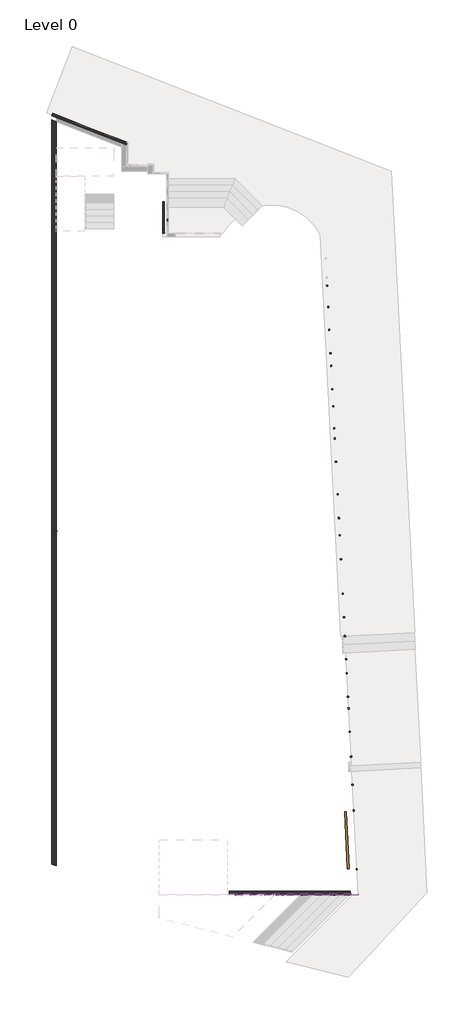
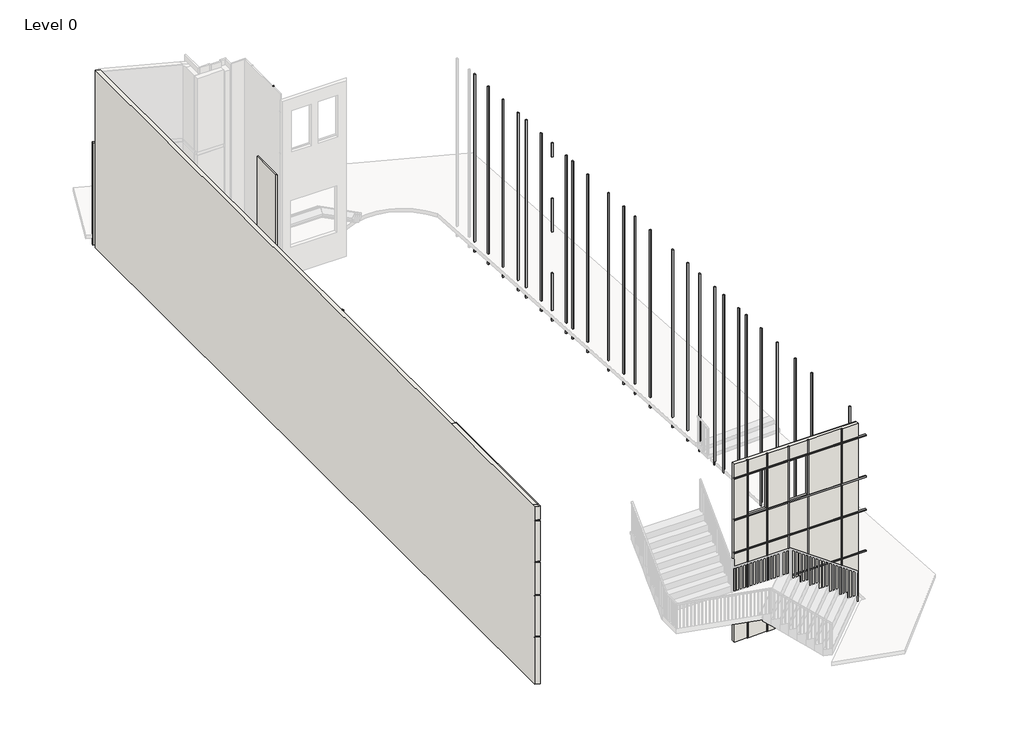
# One storey, part 1 of 6: 37 proxies, 4 walls, 1 door.
"""IFC4 building model written with IfcOpenShell, lengths in millimetres."""

from ifc_helpers import new_model, si_unit, frame, origin, origin_with_axes, place, context, project, spatial, polyline, outline, extrude, faceted_brep, transform, mapped, element, save
from components import m_overhead_rolling_2435_x_1981mm_c1345ebb, wall_9a3caf44

model = new_model("IFC4")

# Units and contexts
model_context = context("Model", 3, world=origin())
ifc_project = project(units=[si_unit("LENGTHUNIT", "METRE", prefix="MILLI")], contexts=[model_context])

# Site, building, storey
site = spatial("IfcSite", under=ifc_project)
building = spatial("IfcBuilding", under=site)
storey = spatial("IfcBuildingStorey", under=building, Name="Level 0", Elevation=0.0)

# Proxies
placement = place(None, origin())
element("IfcBuildingElementProxy", 1, Name="Reveal", ObjectType="Reveal", at=placement, inside=storey, context=model_context, shape_type="SweptSolid", body=[
    extrude(outline(polyline([(12325.5462264, -8627.7267517), (12375.4815392, -8625.1842075), (12378.0240835, -8675.1195203), (12328.0887706, -8677.6620646), (12325.5462264, -8627.7267517)])), origin_with_axes(), (0.0, 0.0, 1.0), 7850.0),
])
element("IfcBuildingElementProxy", 2, Name="Reveal", ObjectType="Reveal", at=placement, inside=storey, context=model_context, shape_type="SweptSolid", body=[
    extrude(outline(polyline([(12376.3971116, -9626.4330086), (12426.3324244, -9623.8904643), (12428.8749687, -9673.8257772), (12378.9396559, -9676.3683214), (12376.3971116, -9626.4330086)])), origin_with_axes(), (0.0, 0.0, 1.0), 7850.0),
])
element("IfcBuildingElementProxy", 3, Name="Reveal", ObjectType="Reveal", at=placement, inside=storey, context=model_context, shape_type="SweptSolid", body=[
    extrude(outline(polyline([(12401.8225542, -10125.786137), (12451.7578671, -10123.2435928), (12454.3004113, -10173.1789056), (12404.3650985, -10175.7214499), (12401.8225542, -10125.786137)])), origin_with_axes(), (0.0, 0.0, 1.0), 7850.0),
])
element("IfcBuildingElementProxy", 4, Name="Reveal", ObjectType="Reveal", at=placement, inside=storey, context=model_context, shape_type="SweptSolid", body=[
    extrude(outline(polyline([(12452.6734395, -11124.4923939), (12502.6087523, -11121.9498496), (12505.1512966, -11171.8851624), (12455.2159838, -11174.4277067), (12452.6734395, -11124.4923939)])), origin_with_axes(), (0.0, 0.0, 1.0), 7850.0),
])
element("IfcBuildingElementProxy", 5, Name="Reveal", ObjectType="Reveal", at=placement, inside=storey, context=model_context, shape_type="SweptSolid", body=[
    extrude(outline(polyline([(12295.0356952, -8028.5029976), (12344.971008, -8025.9604534), (12347.5135523, -8075.8957662), (12297.5782395, -8078.4383105), (12295.0356952, -8028.5029976)])), origin_with_axes(), (0.0, 0.0, 1.0), 7850.0),
])
element("IfcBuildingElementProxy", 6, Name="Reveal", ObjectType="Reveal", at=placement, inside=storey, context=model_context, shape_type="SweptSolid", body=[
    extrude(outline(polyline([(12244.1848099, -7029.7967408), (12294.1201228, -7027.2541965), (12296.662667, -7077.1895094), (12246.7273542, -7079.7320536), (12244.1848099, -7029.7967408)])), origin_with_axes(), (0.0, 0.0, 1.0), 7850.0),
])
element("IfcBuildingElementProxy", 7, Name="Reveal", ObjectType="Reveal", at=placement, inside=storey, context=model_context, shape_type="SweptSolid", body=[
    extrude(outline(polyline([(12203.5041017, -6230.8317353), (12253.4394146, -6228.289191), (12255.9819588, -6278.2245039), (12206.046646, -6280.7670482), (12203.5041017, -6230.8317353)])), origin_with_axes(), (0.0, 0.0, 1.0), 7850.0),
])
element("IfcBuildingElementProxy", 8, Name="Reveal", ObjectType="Reveal", at=placement, inside=storey, context=model_context, shape_type="SweptSolid", body=[
    extrude(outline(polyline([(12152.6532165, -5232.1254785), (12202.5885293, -5229.5829342), (12205.1310736, -5279.518247), (12155.1957607, -5282.0607913), (12152.6532165, -5232.1254785)])), origin_with_axes(), (0.0, 0.0, 1.0), 7850.0),
])
element("IfcBuildingElementProxy", 9, Name="Reveal", ObjectType="Reveal", at=placement, inside=storey, context=model_context, shape_type="SweptSolid", body=[
    extrude(outline(polyline([(12077.170872, -3749.6598473), (12127.1061848, -3747.117303), (12129.6487291, -3797.0526159), (12079.7134163, -3799.5951601), (12077.170872, -3749.6598473)])), origin_with_axes(), (0.0, 0.0, 1.0), 7850.0),
])
element("IfcBuildingElementProxy", 10, Name="Reveal", ObjectType="Reveal", at=placement, inside=storey, context=model_context, shape_type="SweptSolid", body=[
    extrude(outline(polyline([(12025.302969, -2730.9794653), (12075.2382819, -2728.436921), (12077.7808261, -2778.3722339), (12027.8455133, -2780.9147781), (12025.302969, -2730.9794653)])), origin_with_axes(), (0.0, 0.0, 1.0), 7850.0),
])
element("IfcBuildingElementProxy", 11, Name="Reveal", ObjectType="Reveal", at=placement, inside=storey, context=model_context, shape_type="SweptSolid", body=[
    extrude(outline(polyline([(-75.0000039, -2545.4923333), (-25.0000039, -2545.4923333), (-25.0000039, -2595.4923333), (-75.0000039, -2595.4923333), (-75.0000039, -2545.4923333)])), origin_with_axes(), (0.0, 0.0, 1.0), 7850.0),
])
element("IfcBuildingElementProxy", 12, Name="Reveal", ObjectType="Reveal", at=placement, inside=storey, context=model_context, shape_type="SweptSolid", body=[
    extrude(outline(polyline([(11987.8045177, -1994.5136632), (12037.7398305, -1991.9711189), (12040.2823748, -2041.9064318), (11990.3470619, -2044.448976), (11987.8045177, -1994.5136632)])), origin_with_axes(), (0.0, 0.0, 1.0), 7850.0),
])
element("IfcBuildingElementProxy", 13, Name="Reveal", ObjectType="Reveal", at=placement, inside=storey, context=model_context, shape_type="SweptSolid", body=[
    extrude(outline(polyline([(11935.805411, -973.2564532), (11985.7407238, -970.713909), (11988.2832681, -1020.6492218), (11938.3479553, -1023.1917661), (11935.805411, -973.2564532)])), origin_with_axes(), (0.0, 0.0, 1.0), 7850.0),
])
element("IfcBuildingElementProxy", 14, Name="Reveal", ObjectType="Reveal", at=placement, inside=storey, context=model_context, shape_type="SweptSolid", body=[
    extrude(outline(polyline([(11865.6311893, 404.9581812), (11915.5665022, 407.5007255), (11918.1090464, 357.5654126), (11868.1737336, 355.0228684), (11865.6311893, 404.9581812)])), origin_with_axes(), (0.0, 0.0, 1.0), 7850.0),
])
element("IfcBuildingElementProxy", 15, Name="Reveal", ObjectType="Reveal", at=placement, inside=storey, context=model_context, shape_type="SweptSolid", body=[
    extrude(outline(polyline([(11814.7803041, 1403.6644381), (11864.7156169, 1406.2069823), (11867.2581612, 1356.2716695), (11817.3228483, 1353.7291252), (11814.7803041, 1403.6644381)])), origin_with_axes(), (0.0, 0.0, 1.0), 7850.0),
])
element("IfcBuildingElementProxy", 16, Name="Reveal", ObjectType="Reveal", at=placement, inside=storey, context=model_context, shape_type="SweptSolid", body=[
    extrude(outline(polyline([(11792.9144234, 1833.1081282), (11842.8497363, 1835.6506725), (11845.3922805, 1785.7153596), (11795.4569677, 1783.1728154), (11792.9144234, 1833.1081282)])), origin_with_axes(), (0.0, 0.0, 1.0), 7850.0),
])
element("IfcBuildingElementProxy", 17, Name="Reveal", ObjectType="Reveal", at=placement, inside=storey, context=model_context, shape_type="SweptSolid", body=[
    extrude(outline(polyline([(11744.7372862, 2779.3022445), (11794.672599, 2781.8447888), (11797.2151433, 2731.909476), (11747.2798304, 2729.3669317), (11744.7372862, 2779.3022445)])), frame((0.0, 0.0, 7230.0), z_axis=(0.0, 0.0, 1.0), x_axis=(1.0, 0.0, 0.0)), (0.0, 0.0, 1.0), 620.0),
    extrude(outline(polyline([(11744.7372862, 2779.3022445), (11794.672599, 2781.8447888), (11797.2151433, 2731.909476), (11747.2798304, 2729.3669317), (11744.7372862, 2779.3022445)])), frame((0.0, 0.0, 3930.0), z_axis=(0.0, 0.0, 1.0), x_axis=(1.0, 0.0, 0.0)), (0.0, 0.0, 1.0), 1470.0),
    extrude(outline(polyline([(11744.7372862, 2779.3022445), (11794.672599, 2781.8447888), (11797.2151433, 2731.909476), (11747.2798304, 2729.3669317), (11744.7372862, 2779.3022445)])), origin_with_axes(), (0.0, 0.0, 1.0), 2100.0),
])
element("IfcBuildingElementProxy", 18, Name="Reveal", ObjectType="Reveal", at=placement, inside=storey, context=model_context, shape_type="SweptSolid", body=[
    extrude(outline(polyline([(11707.9934451, 3500.9475769), (11757.9287579, 3503.4901212), (11760.4713022, 3453.5548083), (11710.5359893, 3451.012264), (11707.9934451, 3500.9475769)])), origin_with_axes(), (0.0, 0.0, 1.0), 7850.0),
])
element("IfcBuildingElementProxy", 19, Name="Reveal", ObjectType="Reveal", at=placement, inside=storey, context=model_context, shape_type="SweptSolid", body=[
    extrude(outline(polyline([(11657.1425598, 4499.6538337), (11707.0778727, 4502.196378), (11709.6204169, 4452.2610652), (11659.6851041, 4449.7185209), (11657.1425598, 4499.6538337)])), origin_with_axes(), (0.0, 0.0, 1.0), 7850.0),
])
element("IfcBuildingElementProxy", 20, Name="Reveal", ObjectType="Reveal", at=placement, inside=storey, context=model_context, shape_type="SweptSolid", body=[
    extrude(outline(polyline([(11578.8321965, 6037.6614693), (11628.7675094, 6040.2040135), (11631.3100536, 5990.2687007), (11581.3747408, 5987.7261564), (11578.8321965, 6037.6614693)])), origin_with_axes(), (0.0, 0.0, 1.0), 7850.0),
])
element("IfcBuildingElementProxy", 21, Name="Reveal", ObjectType="Reveal", at=placement, inside=storey, context=model_context, shape_type="SweptSolid", body=[
    extrude(outline(polyline([(11529.0651825, 7015.0806042), (11579.0004954, 7017.6231485), (11581.5430396, 6967.6878356), (11531.6077268, 6965.1452914), (11529.0651825, 7015.0806042)])), origin_with_axes(), (0.0, 0.0, 1.0), 7850.0),
])
element("IfcBuildingElementProxy", 22, Name="Reveal", ObjectType="Reveal", at=placement, inside=storey, context=model_context, shape_type="SweptSolid", body=[
    extrude(outline(polyline([(11482.5366225, 7928.8968292), (11532.4719353, 7931.4393735), (11535.0144796, 7881.5040606), (11485.0791668, 7878.9615164), (11482.5366225, 7928.8968292)])), origin_with_axes(), (0.0, 0.0, 1.0), 7850.0),
])
element("IfcBuildingElementProxy", 23, Name="Reveal", ObjectType="Reveal", at=placement, inside=storey, context=model_context, shape_type="SweptSolid", body=[
    extrude(outline(polyline([(11629.6830818, 5038.9552124), (11679.6183946, 5041.4977567), (11682.1609389, 4991.5624439), (11632.225626, 4989.0198996), (11629.6830818, 5038.9552124)])), origin_with_axes(), (0.0, 0.0, 1.0), 7850.0),
])
element("IfcBuildingElementProxy", 24, Name="Reveal", ObjectType="Reveal", at=placement, inside=storey, context=model_context, shape_type="SweptSolid", body=[
    extrude(outline(polyline([(12623.532414, -14480.1454169), (12673.4677268, -14477.6028726), (12676.0102711, -14527.5381855), (12626.0749582, -14530.0807297), (12623.532414, -14480.1454169)])), origin_with_axes(), (0.0, 0.0, 1.0), 7850.0),
])
element("IfcBuildingElementProxy", 25, Name="Reveal", ObjectType="Reveal", at=placement, inside=storey, context=model_context, shape_type="SweptSolid", body=[
    extrude(outline(polyline([(12751.5848142, -16995.081641), (12801.5201271, -16992.5390968), (12804.0626713, -17042.4744096), (12754.1273585, -17045.0169539), (12751.5848142, -16995.081641)])), origin_with_axes(), (0.0, 0.0, 1.0), 7850.0),
])
element("IfcBuildingElementProxy", 26, Name="Reveal", ObjectType="Reveal", at=placement, inside=storey, context=model_context, shape_type="SweptSolid", body=[
    extrude(outline(polyline([(12506.4835473, -12181.317483), (12556.4188601, -12178.7749388), (12558.9614044, -12228.7102516), (12509.0260916, -12231.2527959), (12506.4835473, -12181.317483)])), origin_with_axes(), (0.0, 0.0, 1.0), 7850.0),
])
element("IfcBuildingElementProxy", 27, Name="Reveal", ObjectType="Reveal", at=placement, inside=storey, context=model_context, shape_type="SweptSolid", body=[
    extrude(outline(polyline([(12567.5046096, -13379.7649913), (12617.4399224, -13377.222447), (12619.9824667, -13427.1577598), (12570.0471539, -13429.7003041), (12567.5046096, -13379.7649913)])), origin_with_axes(), (0.0, 0.0, 1.0), 7850.0),
])
element("IfcBuildingElementProxy", 28, Name="Reveal", ObjectType="Reveal", at=placement, inside=storey, context=model_context, shape_type="SweptSolid", body=[
    extrude(outline(polyline([(4695.156273, 10731.9436225), (4745.156273, 10731.9436225), (4745.156273, 10681.9436225), (4695.156273, 10681.9436225), (4695.156273, 10731.9436225)])), origin_with_axes(), (0.0, 0.0, 1.0), 8000.0),
])
element("IfcBuildingElementProxy", 29, Name="Reveal", ObjectType="Reveal", at=placement, inside=storey, context=model_context, shape_type="SweptSolid", body=[
    extrude(outline(polyline([(7340.0200629, -18120.5937279), (7340.0200629, -18070.5937279), (12831.3787889, -18070.5937279), (12833.9246268, -18120.5937279), (7340.0200629, -18120.5937279)])), frame((0.0, 0.0, 7205.0), z_axis=(0.0, 0.0, 1.0), x_axis=(1.0, 0.0, 0.0)), (0.0, 0.0, 1.0), 50.0),
])
element("IfcBuildingElementProxy", 30, Name="Reveal", ObjectType="Reveal", at=placement, inside=storey, context=model_context, shape_type="SweptSolid", body=[
    extrude(outline(polyline([(7340.0200629, -18120.5937279), (7340.0200629, -18070.5937279), (12831.3787889, -18070.5937279), (12833.9246268, -18120.5937279), (7340.0200629, -18120.5937279)])), frame((0.0, 0.0, 5375.0), z_axis=(0.0, 0.0, 1.0), x_axis=(1.0, 0.0, 0.0)), (0.0, 0.0, 1.0), 50.0),
])
element("IfcBuildingElementProxy", 31, Name="Reveal", ObjectType="Reveal", at=placement, inside=storey, context=model_context, shape_type="SweptSolid", body=[
    extrude(outline(polyline([(7915.0200629, -18070.5937279), (7915.0200629, -18120.5937279), (7865.0200629, -18120.5937279), (7865.0200629, -18070.5937279), (7915.0200629, -18070.5937279)])), origin_with_axes(), (0.0, 0.0, 1.0), 7850.0),
])
element("IfcBuildingElementProxy", 32, Name="Reveal", ObjectType="Reveal", at=placement, inside=storey, context=model_context, shape_type="SweptSolid", body=[
    extrude(outline(polyline([(8730.0200629, -18070.5937279), (8730.0200629, -18120.5937279), (8680.0200629, -18120.5937279), (8680.0200629, -18070.5937279), (8730.0200629, -18070.5937279)])), origin_with_axes(), (0.0, 0.0, 1.0), 7850.0),
])
element("IfcBuildingElementProxy", 33, Name="Reveal", ObjectType="Reveal", at=placement, inside=storey, context=model_context, shape_type="SweptSolid", body=[
    extrude(outline(polyline([(9630.0200629, -18070.5937279), (9630.0200629, -18120.5937279), (9580.0200629, -18120.5937279), (9580.0200629, -18070.5937279), (9630.0200629, -18070.5937279)])), origin_with_axes(), (0.0, 0.0, 1.0), 7850.0),
])
element("IfcBuildingElementProxy", 34, Name="Reveal", ObjectType="Reveal", at=placement, inside=storey, context=model_context, shape_type="SweptSolid", body=[
    extrude(outline(polyline([(10445.0200629, -18070.5937279), (10445.0200629, -18120.5937279), (10395.0200629, -18120.5937279), (10395.0200629, -18070.5937279), (10445.0200629, -18070.5937279)])), origin_with_axes(), (0.0, 0.0, 1.0), 7850.0),
])
element("IfcBuildingElementProxy", 35, Name="Reveal", ObjectType="Reveal", at=placement, inside=storey, context=model_context, shape_type="SweptSolid", body=[
    extrude(outline(polyline([(11840.0200629, -18070.5937279), (11840.0200629, -18120.5937279), (11790.0200629, -18120.5937279), (11790.0200629, -18070.5937279), (11840.0200629, -18070.5937279)])), origin_with_axes(), (0.0, 0.0, 1.0), 7850.0),
])
element("IfcBuildingElementProxy", 36, Name="Reveal", ObjectType="Reveal", at=placement, inside=storey, context=model_context, shape_type="SweptSolid", body=[
    extrude(outline(polyline([(7340.0200629, -18120.5937279), (7340.0200629, -18070.5937279), (12831.3787889, -18070.5937279), (12833.9246268, -18120.5937279), (7340.0200629, -18120.5937279)])), frame((0.0, 0.0, 2095.0), z_axis=(0.0, 0.0, 1.0), x_axis=(1.0, 0.0, 0.0)), (0.0, 0.0, 1.0), 50.0),
])
element("IfcBuildingElementProxy", 37, Name="Reveal", ObjectType="Reveal", at=placement, inside=storey, context=model_context, shape_type="SweptSolid", body=[
    extrude(outline(polyline([(7340.0200629, -18120.5937279), (7340.0200629, -18070.5937279), (12831.3787889, -18070.5937279), (12833.9246268, -18120.5937279), (7340.0200629, -18120.5937279)])), frame((0.0, 0.0, 3915.0), z_axis=(0.0, 0.0, 1.0), x_axis=(1.0, 0.0, 0.0)), (0.0, 0.0, 1.0), 50.0),
])

# Door
m_overhead_rolling_2435_x_1981mm_shape = m_overhead_rolling_2435_x_1981mm_c1345ebb(model_context)
element("IfcDoor", 38, ObjectType="M_Overhead-Rolling : 2435 x 1981mm", at=placement, inside=storey, context=model_context, shape_type="MappedRepresentation", body=[
    mapped(m_overhead_rolling_2435_x_1981mm_shape, transform((12553.9233296, -15767.8510608, 0.0), x_axis=(0.05085088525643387, -0.9987062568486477, 0.0), y_axis=(0.9987062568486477, 0.05085088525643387, 0.0), z_axis=(0.0, 0.0, 1.0))),
])

# Walls
element("IfcWall", 39, ObjectType="Generic - 15cm-gypsum-kamposite 2", at=placement, inside=storey, context=model_context, shape_type="Brep", body=[
    faceted_brep([(7340.0200629, -18095.5937279, 7850.0), (7340.0200629, -18095.5937279, 7255.0), (7865.0200629, -18095.5937279, 7255.0), (7865.0200629, -18095.5937279, 7850.0), (12512.2371737, -18095.5937279, 7255.0), (12512.2371737, -18095.5937279, 7850.0), (11840.0200629, -18095.5937279, 7850.0), (11840.0200629, -18095.5937279, 7255.0), (7340.0200629, -18095.5937279, 7205.0), (7340.0200629, -18095.5937279, 5425.0), (7865.0200629, -18095.5937279, 5425.0), (7865.0200629, -18095.5937279, 7205.0), (12512.2371737, -18095.5937279, 5425.0), (12512.2371737, -18095.5937279, 7205.0), (11840.0200629, -18095.5937279, 7205.0), (11840.0200629, -18095.5937279, 5425.0), (7340.0200629, -18095.5937279, 0.0), (7865.0200629, -18095.5937279, 0.0), (7865.0200629, -18095.5937279, 2095.0), (7340.0200629, -18095.5937279, 2095.0), (7865.0200629, -18095.5937279, 5375.0), (7340.0200629, -18095.5937279, 5375.0), (7340.0200629, -18095.5937279, 3965.0), (7865.0200629, -18095.5937279, 3965.0), (7915.0200629, -18095.5937279, 7850.0), (7915.0200629, -18095.5937279, 7255.0), (8680.0200629, -18095.5937279, 7255.0), (8680.0200629, -18095.5937279, 7850.0), (8680.0200629, -18095.5937279, 5375.0), (7915.0200629, -18095.5937279, 5375.0), (7915.0200629, -18095.5937279, 3965.0), (8680.0200629, -18095.5937279, 3965.0), (7915.0200629, -18095.5937279, 0.0), (8680.0200629, -18095.5937279, 0.0), (8680.0200629, -18095.5937279, 2095.0), (7915.0200629, -18095.5937279, 2095.0), (8730.0200629, -18095.5937279, 7850.0), (8730.0200629, -18095.5937279, 7255.0), (9580.0200629, -18095.5937279, 7255.0), (9580.0200629, -18095.5937279, 7850.0), (8730.0200629, -18095.5937279, 7205.0), (8730.0200629, -18095.5937279, 5425.0), (9580.0200629, -18095.5937279, 5425.0), (9580.0200629, -18095.5937279, 7205.0), (9580.0200629, -18095.5937279, 5375.0), (8730.0200629, -18095.5937279, 5375.0), (8730.0200629, -18095.5937279, 3965.0), (9580.0200629, -18095.5937279, 3965.0), (8730.0200629, -18095.5937279, 0.0), (9580.0200629, -18095.5937279, 0.0), (9580.0200629, -18095.5937279, 2095.0), (8730.0200629, -18095.5937279, 2095.0), (9630.0200629, -18095.5937279, 7850.0), (9630.0200629, -18095.5937279, 7255.0), (10395.0200629, -18095.5937279, 7255.0), (10395.0200629, -18095.5937279, 7850.0), (10395.0200629, -18095.5937279, 5375.0), (9630.0200629, -18095.5937279, 5375.0), (9630.0200629, -18095.5937279, 3965.0), (10395.0200629, -18095.5937279, 3965.0), (9630.0200629, -18095.5937279, 0.0), (10395.0200629, -18095.5937279, 0.0), (10395.0200629, -18095.5937279, 2095.0), (9630.0200629, -18095.5937279, 2095.0), (10445.0200629, -18095.5937279, 7850.0), (10445.0200629, -18095.5937279, 7255.0), (11790.0200629, -18095.5937279, 7255.0), (11790.0200629, -18095.5937279, 7850.0), (10445.0200629, -18095.5937279, 7205.0), (10445.0200629, -18095.5937279, 5425.0), (11790.0200629, -18095.5937279, 5425.0), (11790.0200629, -18095.5937279, 7205.0), (11790.0200629, -18095.5937279, 5375.0), (10445.0200629, -18095.5937279, 5375.0), (10445.0200629, -18095.5937279, 3965.0), (11790.0200629, -18095.5937279, 3965.0), (12512.2371737, -18095.5937279, 5375.0), (11840.0200629, -18095.5937279, 5375.0), (11840.0200629, -18095.5937279, 3965.0), (12512.2371737, -18095.5937279, 3965.0), (10445.0200629, -18095.5937279, 0.0), (11790.0200629, -18095.5937279, 0.0), (11790.0200629, -18095.5937279, 2095.0), (10445.0200629, -18095.5937279, 2095.0), (11840.0200629, -18095.5937279, 0.0), (12512.2371737, -18095.5937279, 0.0), (12512.2371737, -18095.5937279, 2095.0), (11840.0200629, -18095.5937279, 2095.0), (11840.0200629, -18095.5937279, 2145.0), (12512.2371737, -18095.5937279, 2145.0), (12512.2371737, -18095.5937279, 3915.0), (11840.0200629, -18095.5937279, 3915.0), (7340.0200629, -18095.5937279, 2145.0), (7865.0200629, -18095.5937279, 2145.0), (7865.0200629, -18095.5937279, 3915.0), (7340.0200629, -18095.5937279, 3915.0), (7915.0200629, -18095.5937279, 2145.0), (8680.0200629, -18095.5937279, 2145.0), (8680.0200629, -18095.5937279, 3915.0), (7915.0200629, -18095.5937279, 3915.0), (8730.0200629, -18095.5937279, 2145.0), (9580.0200629, -18095.5937279, 2145.0), (9580.0200629, -18095.5937279, 3915.0), (8730.0200629, -18095.5937279, 3915.0), (9630.0200629, -18095.5937279, 2145.0), (10395.0200629, -18095.5937279, 2145.0), (10395.0200629, -18095.5937279, 3915.0), (9630.0200629, -18095.5937279, 3915.0), (10445.0200629, -18095.5937279, 2145.0), (11790.0200629, -18095.5937279, 2145.0), (11790.0200629, -18095.5937279, 3915.0), (10445.0200629, -18095.5937279, 3915.0), (12504.5996599, -17945.5937279, 0.0), (7340.0200629, -17945.5937279, 0.0), (7340.0200629, -17945.5937279, 4500.0), (7340.0200629, -17945.5937279, 7850.0), (7490.0200629, -17945.5937279, 7850.0), (12504.5996599, -17945.5937279, 7850.0), (12504.5996599, -17945.5937279, 4500.0), (7490.0200629, -17945.5937279, 4500.0), (7460.0200629, -17945.5937279, 4500.0), (7460.0200629, -17945.5937279, 4350.0), (12504.5996599, -17945.5937279, 4350.0), (8705.0200629, -17945.5937279, 5400.0), (8705.0200629, -17945.5937279, 7230.0), (7890.0200629, -17945.5937279, 7230.0), (7890.0200629, -17945.5937279, 5400.0), (10420.0200629, -17945.5937279, 5400.0), (10420.0200629, -17945.5937279, 7230.0), (9605.0200629, -17945.5937279, 7230.0), (9605.0200629, -17945.5937279, 5400.0), (11840.0200629, -18070.5937279, 0.0), (11790.0200629, -18070.5937279, 0.0), (10445.0200629, -18070.5937279, 0.0), (10395.0200629, -18070.5937279, 0.0), (9630.0200629, -18070.5937279, 0.0), (9580.0200629, -18070.5937279, 0.0), (8730.0200629, -18070.5937279, 0.0), (8680.0200629, -18070.5937279, 0.0), (7915.0200629, -18070.5937279, 0.0), (7865.0200629, -18070.5937279, 0.0), (7340.0200629, -18070.5937279, 2095.0), (7340.0200629, -18070.5937279, 2145.0), (7340.0200629, -18070.5937279, 3915.0), (7340.0200629, -18070.5937279, 3965.0), (7340.0200629, -18070.5937279, 5375.0), (7340.0200629, -18070.5937279, 5425.0), (7340.0200629, -18070.5937279, 7205.0), (7340.0200629, -18070.5937279, 7255.0), (7340.0200629, -17965.5937279, 7850.0), (12505.6179951, -17965.5937279, 4350.0), (12505.6179951, -17965.5937279, 4500.0), (12505.6179951, -17965.5937279, 7850.0), (12510.9642547, -18070.5937279, 7255.0), (12510.9642547, -18070.5937279, 7205.0), (12510.9642547, -18070.5937279, 5425.0), (12510.9642547, -18070.5937279, 5375.0), (12510.9642547, -18070.5937279, 3965.0), (12510.9642547, -18070.5937279, 3915.0), (12510.9642547, -18070.5937279, 2145.0), (12510.9642547, -18070.5937279, 2095.0), (7460.0200629, -17965.5937279, 4350.0), (7460.0200629, -17965.5937279, 4500.0), (7865.0200629, -18070.5937279, 7850.0), (7915.0200629, -18070.5937279, 7850.0), (8680.0200629, -18070.5937279, 7850.0), (8730.0200629, -18070.5937279, 7850.0), (9580.0200629, -18070.5937279, 7850.0), (9630.0200629, -18070.5937279, 7850.0), (10395.0200629, -18070.5937279, 7850.0), (10445.0200629, -18070.5937279, 7850.0), (11790.0200629, -18070.5937279, 7850.0), (11840.0200629, -18070.5937279, 7850.0), (8705.0200629, -18070.5937279, 5400.0), (8705.0200629, -18070.5937279, 7230.0), (7890.0200629, -18070.5937279, 7230.0), (7890.0200629, -18070.5937279, 5400.0), (10420.0200629, -18070.5937279, 5400.0), (10420.0200629, -18070.5937279, 7230.0), (9605.0200629, -18070.5937279, 7230.0), (9605.0200629, -18070.5937279, 5400.0), (7865.0200629, -18070.5937279, 7205.0), (7865.0200629, -18070.5937279, 5425.0), (7865.0200629, -18070.5937279, 5375.0), (7865.0200629, -18070.5937279, 3965.0), (7865.0200629, -18070.5937279, 3915.0), (7865.0200629, -18070.5937279, 2145.0), (7865.0200629, -18070.5937279, 2095.0), (7915.0200629, -18070.5937279, 2095.0), (8680.0200629, -18070.5937279, 2095.0), (8730.0200629, -18070.5937279, 2095.0), (9580.0200629, -18070.5937279, 2095.0), (9630.0200629, -18070.5937279, 2095.0), (10395.0200629, -18070.5937279, 2095.0), (10445.0200629, -18070.5937279, 2095.0), (11790.0200629, -18070.5937279, 2095.0), (11840.0200629, -18070.5937279, 2095.0), (11840.0200629, -18070.5937279, 2145.0), (11840.0200629, -18070.5937279, 3915.0), (11840.0200629, -18070.5937279, 3965.0), (11840.0200629, -18070.5937279, 5375.0), (11840.0200629, -18070.5937279, 5425.0), (11840.0200629, -18070.5937279, 7205.0), (11840.0200629, -18070.5937279, 7255.0), (11790.0200629, -18070.5937279, 7255.0), (10445.0200629, -18070.5937279, 7255.0), (10395.0200629, -18070.5937279, 7255.0), (9630.0200629, -18070.5937279, 7255.0), (9580.0200629, -18070.5937279, 7255.0), (8730.0200629, -18070.5937279, 7255.0), (8680.0200629, -18070.5937279, 7255.0), (7915.0200629, -18070.5937279, 7255.0), (7865.0200629, -18070.5937279, 7255.0), (8730.0200629, -18070.5937279, 5425.0), (8730.0200629, -18070.5937279, 7205.0), (9580.0200629, -18070.5937279, 7205.0), (9580.0200629, -18070.5937279, 5425.0), (7915.0200629, -18070.5937279, 5375.0), (8680.0200629, -18070.5937279, 5375.0), (8680.0200629, -18070.5937279, 3965.0), (7915.0200629, -18070.5937279, 3965.0), (8730.0200629, -18070.5937279, 5375.0), (9580.0200629, -18070.5937279, 5375.0), (9580.0200629, -18070.5937279, 3965.0), (8730.0200629, -18070.5937279, 3965.0), (10445.0200629, -18070.5937279, 5425.0), (10445.0200629, -18070.5937279, 7205.0), (11790.0200629, -18070.5937279, 7205.0), (11790.0200629, -18070.5937279, 5425.0), (9630.0200629, -18070.5937279, 5375.0), (10395.0200629, -18070.5937279, 5375.0), (10395.0200629, -18070.5937279, 3965.0), (9630.0200629, -18070.5937279, 3965.0), (10445.0200629, -18070.5937279, 5375.0), (11790.0200629, -18070.5937279, 5375.0), (11790.0200629, -18070.5937279, 3965.0), (10445.0200629, -18070.5937279, 3965.0), (7915.0200629, -18070.5937279, 2145.0), (7915.0200629, -18070.5937279, 3915.0), (8680.0200629, -18070.5937279, 3915.0), (8680.0200629, -18070.5937279, 2145.0), (8730.0200629, -18070.5937279, 2145.0), (8730.0200629, -18070.5937279, 3915.0), (9580.0200629, -18070.5937279, 3915.0), (9580.0200629, -18070.5937279, 2145.0), (9630.0200629, -18070.5937279, 2145.0), (9630.0200629, -18070.5937279, 3915.0), (10395.0200629, -18070.5937279, 3915.0), (10395.0200629, -18070.5937279, 2145.0), (10445.0200629, -18070.5937279, 2145.0), (10445.0200629, -18070.5937279, 3915.0), (11790.0200629, -18070.5937279, 3915.0), (11790.0200629, -18070.5937279, 2145.0)], [[[0, 1, 2, 3]], [[4, 5, 6, 7]], [[8, 9, 10, 11]], [[12, 13, 14, 15]], [[16, 17, 18, 19]], [[20, 21, 22, 23]], [[24, 25, 26, 27]], [[28, 29, 30, 31]], [[32, 33, 34, 35]], [[36, 37, 38, 39]], [[40, 41, 42, 43]], [[44, 45, 46, 47]], [[48, 49, 50, 51]], [[52, 53, 54, 55]], [[56, 57, 58, 59]], [[60, 61, 62, 63]], [[64, 65, 66, 67]], [[68, 69, 70, 71]], [[72, 73, 74, 75]], [[76, 77, 78, 79]], [[80, 81, 82, 83]], [[84, 85, 86, 87]], [[88, 89, 90, 91]], [[92, 93, 94, 95]], [[96, 97, 98, 99]], [[100, 101, 102, 103]], [[104, 105, 106, 107]], [[108, 109, 110, 111]], [[112, 113, 114, 115, 116, 117, 118, 119, 120, 121, 122], [123, 124, 125, 126], [127, 128, 129, 130]], [[113, 112, 85, 84, 131, 132, 81, 80, 133, 134, 61, 60, 135, 136, 49, 48, 137, 138, 33, 32, 139, 140, 17, 16]], [[115, 114, 113, 16, 19, 141, 142, 92, 95, 143, 144, 22, 21, 145, 146, 9, 8, 147, 148, 1, 0, 149]], [[85, 112, 122, 150, 151, 118, 117, 152, 5, 4, 153, 154, 13, 12, 155, 156, 76, 79, 157, 158, 90, 89, 159, 160, 86]], [[121, 161, 150, 122]], [[151, 162, 120, 119, 118]], [[161, 162, 151, 150]], [[162, 161, 121, 120]], [[149, 0, 3, 163, 164, 24, 27, 165, 166, 36, 39, 167, 168, 52, 55, 169, 170, 64, 67, 171, 172, 6, 5, 152]], [[152, 117, 116, 115, 149]], [[124, 123, 173, 174]], [[125, 124, 174, 175]], [[126, 125, 175, 176]], [[123, 126, 176, 173]], [[128, 127, 177, 178]], [[129, 128, 178, 179]], [[130, 129, 179, 180]], [[127, 130, 180, 177]], [[148, 147, 181, 182, 146, 145, 183, 184, 144, 143, 185, 186, 142, 141, 187, 140, 139, 188, 189, 138, 137, 190, 191, 136, 135, 192, 193, 134, 133, 194, 195, 132, 131, 196, 160, 159, 197, 198, 158, 157, 199, 200, 156, 155, 201, 202, 154, 153, 203, 172, 171, 204, 205, 170, 169, 206, 207, 168, 167, 208, 209, 166, 165, 210, 211, 164, 163, 212], [176, 175, 174, 173], [213, 214, 215, 216], [217, 218, 219, 220], [221, 222, 223, 224], [180, 179, 178, 177], [225, 226, 227, 228], [229, 230, 231, 232], [233, 234, 235, 236], [237, 238, 239, 240], [241, 242, 243, 244], [245, 246, 247, 248], [249, 250, 251, 252]], [[147, 8, 11, 181]], [[13, 154, 202, 14]], [[214, 40, 43, 215]], [[226, 68, 71, 227]], [[1, 148, 212, 2]], [[153, 4, 7, 203]], [[25, 211, 210, 26]], [[37, 209, 208, 38]], [[53, 207, 206, 54]], [[65, 205, 204, 66]], [[145, 21, 20, 183]], [[76, 156, 200, 77]], [[217, 29, 28, 218]], [[221, 45, 44, 222]], [[229, 57, 56, 230]], [[233, 73, 72, 234]], [[9, 146, 182, 10]], [[155, 12, 15, 201]], [[41, 213, 216, 42]], [[69, 225, 228, 70]], [[212, 163, 3, 2]], [[182, 181, 11, 10]], [[17, 140, 187, 18]], [[183, 20, 23, 184]], [[93, 186, 185, 94]], [[164, 211, 25, 24]], [[139, 32, 35, 188]], [[29, 217, 220, 30]], [[237, 96, 99, 238]], [[210, 165, 27, 26]], [[33, 138, 189, 34]], [[218, 28, 31, 219]], [[97, 240, 239, 98]], [[166, 209, 37, 36]], [[214, 213, 41, 40]], [[137, 48, 51, 190]], [[45, 221, 224, 46]], [[241, 100, 103, 242]], [[208, 167, 39, 38]], [[216, 215, 43, 42]], [[49, 136, 191, 50]], [[222, 44, 47, 223]], [[101, 244, 243, 102]], [[168, 207, 53, 52]], [[135, 60, 63, 192]], [[57, 229, 232, 58]], [[245, 104, 107, 246]], [[206, 169, 55, 54]], [[61, 134, 193, 62]], [[230, 56, 59, 231]], [[105, 248, 247, 106]], [[170, 205, 65, 64]], [[226, 225, 69, 68]], [[133, 80, 83, 194]], [[73, 233, 236, 74]], [[249, 108, 111, 250]], [[204, 171, 67, 66]], [[228, 227, 71, 70]], [[81, 132, 195, 82]], [[234, 72, 75, 235]], [[109, 252, 251, 110]], [[172, 203, 7, 6]], [[202, 201, 15, 14]], [[131, 84, 87, 196]], [[77, 200, 199, 78]], [[197, 88, 91, 198]], [[187, 141, 19, 18]], [[189, 188, 35, 34]], [[191, 190, 51, 50]], [[193, 192, 63, 62]], [[195, 194, 83, 82]], [[160, 196, 87, 86]], [[142, 186, 93, 92]], [[237, 240, 97, 96]], [[241, 244, 101, 100]], [[245, 248, 105, 104]], [[249, 252, 109, 108]], [[197, 159, 89, 88]], [[185, 143, 95, 94]], [[239, 238, 99, 98]], [[243, 242, 103, 102]], [[247, 246, 107, 106]], [[251, 250, 111, 110]], [[158, 198, 91, 90]], [[144, 184, 23, 22]], [[220, 219, 31, 30]], [[224, 223, 47, 46]], [[232, 231, 59, 58]], [[236, 235, 75, 74]], [[199, 157, 79, 78]]]),
])
element("IfcWall", 40, ObjectType="kamposite5cm", at=placement, inside=storey, context=model_context, shape_type="SweptSolid", body=[
    extrude(outline(polyline([(4502.5008952, 10131.7405588), (4502.5008952, 11496.9409298), (4552.5008952, 11496.9409298), (4552.5008952, 10131.7405588), (4502.5008952, 10131.7405588)])), origin_with_axes(), (0.0, 0.0, 1.0), 4500.0),
])
wall_shape = wall_9a3caf44(model_context)
element("IfcWall", 41, ObjectType="kamposite10 : kamposite2", at=placement, inside=storey, context=model_context, shape_type="MappedRepresentation", body=[
    mapped(wall_shape, transform((0.0, 0.0, 2000.0), x_axis=(1.0, 0.0, 0.0), y_axis=(0.0, 1.0, 0.0), z_axis=(0.0, 0.0, 1.0))),
])
element("IfcWall", 42, ObjectType="Generic - 20cm-granit", at=placement, inside=storey, context=model_context, shape_type="Brep", body=[
    faceted_brep([(-50.0000039, 14903.4677145, 0.0), (-50.0000039, 14903.4677145, 4350.0), (-50.0000039, 13901.5570443, 4350.0), (-50.0000039, 12568.8506586, 4350.0), (-50.0000039, 12568.8506586, 4500.0), (-50.0000039, 13901.5570443, 4500.0), (-50.0000039, 14903.4677145, 4500.0), (-50.0000039, 14903.4677145, 7759.0), (-50.0000039, 13901.5570443, 7759.0), (-50.0000039, 10481.5722364, 7759.0), (-50.0000039, -2545.4923333, 7759.0), (-50.0000039, -2545.4923333, 4500.0), (-50.0000039, 2226.9438392, 4500.0), (-50.0000039, 2226.9438392, 4350.0), (-50.0000039, -2545.4923333, 4350.0), (-50.0000039, -2545.4923333, 0.0), (-50.0000039, 10328.8506586, 4350.0), (-50.0000039, 6351.9438364, 4350.0), (-50.0000039, 6351.9438364, 4500.0), (-50.0000039, 6359.4957281, 4500.0), (-50.0000039, 6539.4957281, 4500.0), (-50.0000039, 8681.9396335, 4500.0), (-50.0000039, 8861.9396335, 4500.0), (-50.0000039, 10328.8506586, 4500.0), (-50.0000039, -16725.521894, 4350.0), (-50.0000039, -16725.521894, 4500.0), (-50.0000039, -16704.4650439, 4500.0), (-50.0000039, -12823.8791407, 4500.0), (-50.0000039, -12673.8791407, 4500.0), (-50.0000039, -4303.7038617, 4500.0), (-50.0000039, -4153.7038617, 4500.0), (-50.0000039, -2595.4923333, 4500.0), (-50.0000039, -2595.4923333, 7759.0), (-50.0000039, -10787.9183278, 7759.0), (-50.0000039, -10787.9183278, 7850.0), (-50.0000039, -10814.615329, 7850.0), (-50.0000039, -16704.4650439, 7850.0), (-50.0000039, -16725.521894, 7850.0), (-50.0000039, -16862.3914197, 7850.0), (-50.0000039, -16862.3914197, 7255.0), (-50.0000039, -16836.0703571, 7255.0), (-50.0000039, -16836.0703571, 7205.0), (-50.0000039, -16862.3914197, 7205.0), (-50.0000039, -16862.3914197, 5425.0), (-50.0000039, -16836.0703571, 5425.0), (-50.0000039, -16836.0703571, 5375.0), (-50.0000039, -16862.3914197, 5375.0), (-50.0000039, -16862.3914197, 3955.0), (-50.0000039, -16836.0703571, 3955.0), (-50.0000039, -16836.0703571, 3905.0), (-50.0000039, -16862.3914197, 3905.0), (-50.0000039, -16862.3914197, 2125.0), (-50.0000039, -16836.0703571, 2125.0), (-50.0000039, -16836.0703571, 2075.0), (-50.0000039, -16862.3914197, 2075.0), (-50.0000039, -16862.3914197, 1200.0), (-50.0000039, -16862.3914197, 0.0), (-50.0000039, -2595.4923333, 0.0), (-50.0000039, -2595.4923333, 4350.0), (-50.0000039, -16704.4650439, 4350.0), (-250.0000039, 14982.068236, 0.0), (-250.0000039, -16796.5196228, 0.0), (-250.0000039, -16796.5196228, 2075.0), (-250.0000039, -16770.1985601, 2075.0), (-250.0000039, -16770.1985601, 2125.0), (-250.0000039, -16796.5196228, 2125.0), (-250.0000039, -16796.5196228, 3905.0), (-250.0000039, -16770.1985601, 3905.0), (-250.0000039, -16770.1985601, 3955.0), (-250.0000039, -16796.5196228, 3955.0), (-250.0000039, -16796.5196228, 5375.0), (-250.0000039, -16770.1985601, 5375.0), (-250.0000039, -16770.1985601, 5425.0), (-250.0000039, -16796.5196228, 5425.0), (-250.0000039, -16796.5196228, 7205.0), (-250.0000039, -16770.1985601, 7205.0), (-250.0000039, -16770.1985601, 7255.0), (-250.0000039, -16796.5196228, 7255.0), (-250.0000039, -16796.5196228, 7850.0), (-250.0000039, -16659.6500971, 7850.0), (-250.0000039, -10761.1063058, 7850.0), (-250.0000039, 14982.068236, 7850.0), (-75.0000039, -2545.4923333, 0.0), (-75.0000039, -2595.4923333, 0.0), (-80.0000039, 14915.2577927, 7850.0), (-80.0000039, 14915.2577927, 7759.0), (-80.0000039, 14915.2577927, 4500.0), (-80.0000039, 14915.2577927, 4350.0), (-80.0000039, -16852.5106502, 7850.0), (-50.2184072, 2226.9438392, 4350.0), (-50.2184072, 6351.9438364, 4350.0), (-60.0290025, 10328.8506586, 4350.0), (-60.0290025, 12568.8506586, 4350.0), (-80.0000039, -16715.6411245, 4350.0), (-75.0000039, -2595.4923333, 4350.0), (-75.0000039, -2545.4923333, 4350.0), (-50.2184072, 6351.9438364, 4500.0), (-50.2184072, 2226.9438392, 4500.0), (-75.0000039, -2545.4923333, 4500.0), (-75.0000039, -2595.4923333, 4500.0), (-80.0000039, -16715.6411245, 4500.0), (-60.0290025, 12568.8506586, 4500.0), (-60.0290025, 10328.8506586, 4500.0), (-80.0000039, -10781.541631, 7759.0), (-75.0000039, -2595.4923333, 7759.0), (-75.0000039, -2545.4923333, 7759.0), (-80.0000039, -10781.541631, 7850.0), (-80.0000039, -16715.6411245, 7850.0), (-80.0000039, -10806.5889755, 7850.0)], [[[0, 1, 2, 3, 4, 5, 6, 7, 8, 9, 10, 11, 12, 13, 14, 15], [16, 17, 18, 19, 20, 21, 22, 23]], [[24, 25, 26, 27, 28, 29, 30, 31, 32, 33, 34, 35, 36, 37, 38, 39, 40, 41, 42, 43, 44, 45, 46, 47, 48, 49, 50, 51, 52, 53, 54, 55, 56, 57, 58, 59]], [[60, 61, 62, 63, 64, 65, 66, 67, 68, 69, 70, 71, 72, 73, 74, 75, 76, 77, 78, 79, 80, 81]], [[61, 60, 0, 15, 82, 83, 57, 56]], [[0, 60, 81, 84, 85, 7, 6, 86, 87, 1]], [[61, 56, 55, 54, 62]], [[88, 78, 77, 39, 38]], [[46, 70, 69, 47]], [[73, 43, 42, 74]], [[50, 66, 65, 51]], [[89, 90, 17, 16, 91, 92, 3, 2, 1, 87, 93, 24, 59, 58, 94, 95, 14, 13]], [[96, 97, 12, 11, 98, 99, 31, 30, 29, 28, 27, 26, 25, 100, 86, 6, 5, 4, 101, 102, 23, 22, 21, 20, 19, 18]], [[93, 100, 25, 24]], [[100, 93, 87, 86]], [[90, 89, 97, 96]], [[97, 89, 13, 12]], [[90, 96, 18, 17]], [[85, 103, 33, 32, 104, 105, 10, 9, 8, 7]], [[103, 85, 84, 106]], [[33, 103, 106, 34]], [[38, 37, 107, 88]], [[79, 78, 88, 107]], [[108, 35, 34, 106]], [[80, 79, 107, 108]], [[84, 81, 80, 108, 106]], [[37, 36, 35, 108, 107]], [[82, 95, 94, 83]], [[98, 105, 104, 99]], [[83, 94, 58, 57]], [[99, 104, 32, 31]], [[95, 82, 15, 14]], [[105, 98, 11, 10]], [[44, 72, 71, 45]], [[45, 71, 70, 46]], [[72, 44, 43, 73]], [[40, 76, 75, 41]], [[41, 75, 74, 42]], [[76, 40, 39, 77]], [[48, 68, 67, 49]], [[49, 67, 66, 50]], [[68, 48, 47, 69]], [[52, 64, 63, 53]], [[53, 63, 62, 54]], [[64, 52, 51, 65]], [[92, 91, 102, 101]], [[102, 91, 16, 23]], [[3, 92, 101, 4]]]),
])

save(model, "model.ifc")
